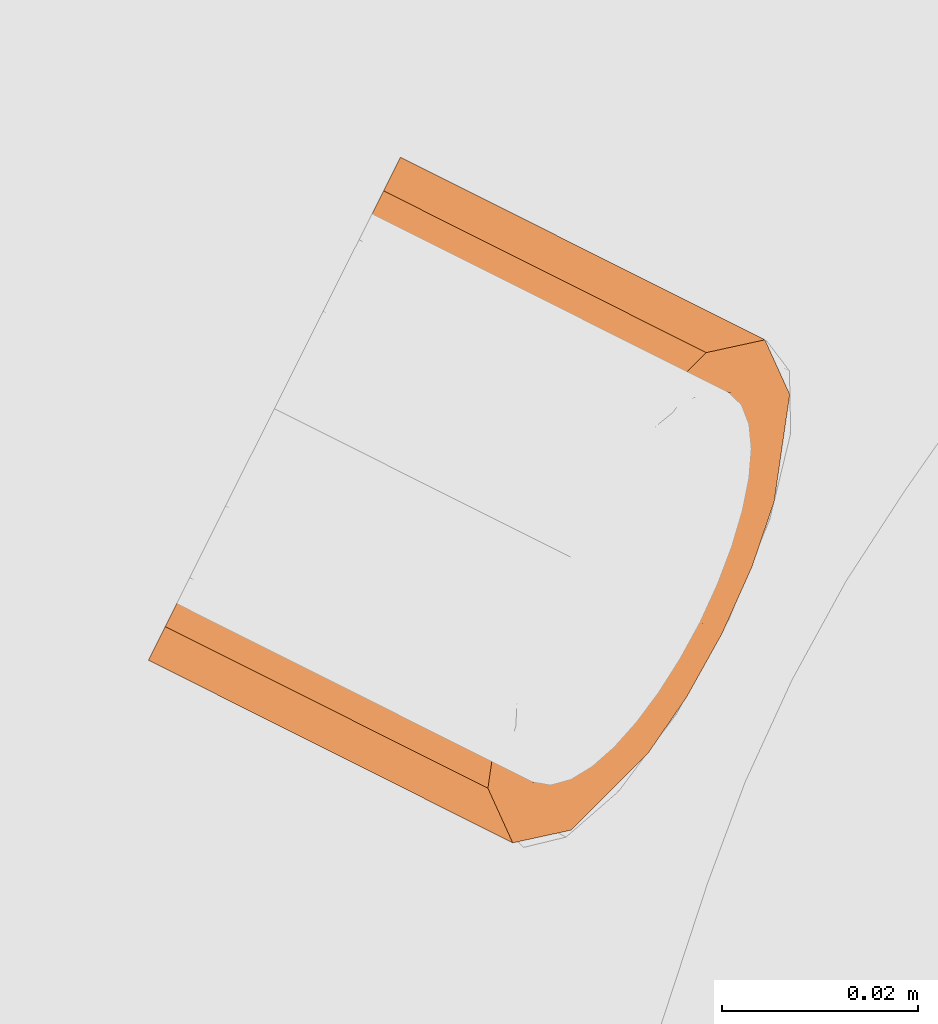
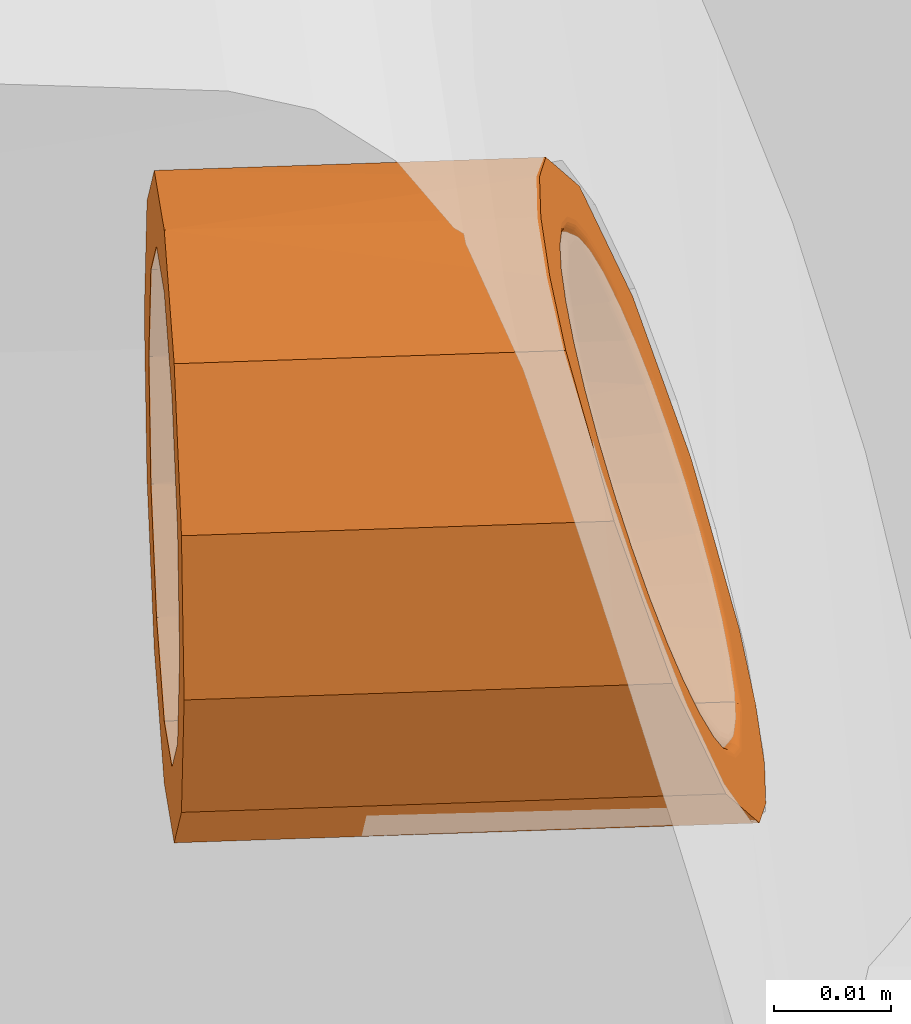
# One storey, part 184 of 206: 1 proxy.
"""IFC2X3 building model written with IfcOpenShell, lengths in metres."""

from ifc_helpers import new_model, si_unit, derived_unit, direction, frame, origin, place, context, subcontext, project, spatial, faceted_brep, source, transform, mapped, material, type_object, type_shapes, element, save


model = new_model("IFC2X3")

# Units and contexts
model_context = context("Model", 3, precision=5.2338327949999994e-05, world=origin(), true_north=direction((0.0, 1.0)))
body_context = subcontext(model_context, "Body", "Model", "MODEL_VIEW")
ifc_project = project(units=[si_unit("LENGTHUNIT", "METRE"), si_unit("AREAUNIT", "SQUARE_METRE"), si_unit("VOLUMEUNIT", "CUBIC_METRE"), si_unit("MASSUNIT", "GRAM", prefix="KILO"), si_unit("PLANEANGLEUNIT", "RADIAN"), derived_unit("THERMALTRANSMITTANCEUNIT", [(si_unit("MASSUNIT", "GRAM", prefix="KILO"), 1), (si_unit("THERMODYNAMICTEMPERATUREUNIT", "KELVIN"), -1), (si_unit("TIMEUNIT", "SECOND"), -3)])], contexts=[model_context])

# Site, building, storey
site_placement = place(None, frame((0.0, 0.0, 0.0), z_axis=(0.0, 0.0, 1.0), x_axis=(0.8939966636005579, -0.4480736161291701, 0.0)))
site = spatial("IfcSite", under=ifc_project, at=site_placement, Name="Default", CompositionType="ELEMENT")
building_placement = place(site_placement, origin())
building = spatial("IfcBuilding", under=site, at=building_placement, CompositionType="ELEMENT")
storey_placement = place(building_placement, origin())
storey = spatial("IfcBuildingStorey", under=building, at=storey_placement, Name="Erdgeschoss", CompositionType="ELEMENT", Elevation=0.0)

# Proxy
ifc_material = material(Name="IfcSurfaceStyle #626231")
building_element_proxy_type = type_object("IfcBuildingElementProxyType", Name="BuildingElementProxy 48:BuildingElementProxy 48", PredefinedType="NOTDEFINED", material=ifc_material)
shared_shape = source(origin(), body_context, "Body", "Brep", [
    faceted_brep([(21.723333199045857, 4.1910629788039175, 0.7645585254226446), (21.723921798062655, 4.1999830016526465, 0.7627842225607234), (21.72319190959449, 4.19119322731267, 0.764822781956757), (21.72377895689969, 4.1999830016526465, 0.7630608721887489), (21.723091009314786, 4.191251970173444, 0.764931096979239), (21.72355795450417, 4.199983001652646, 0.7632801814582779), (21.722972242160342, 4.191305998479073, 0.765022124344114), (21.722838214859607, 4.1913538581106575, 0.7650932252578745), (21.722261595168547, 4.187394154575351, 0.7671353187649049), (21.722126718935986, 4.187463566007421, 0.7671944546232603), (21.72131160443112, 4.183960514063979, 0.769959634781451), (21.72117554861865, 4.1840488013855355, 0.7700027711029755), (21.72015528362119, 4.181144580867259, 0.7733964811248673), (21.7200177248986, 4.181248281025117, 0.7734201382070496), (21.71883248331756, 4.179075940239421, 0.7773268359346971), (21.718693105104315, 4.179190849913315, 0.7773282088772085), (21.717398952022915, 4.177813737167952, 0.7815845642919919), (21.717257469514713, 4.177935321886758, 0.7815618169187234), (21.71591086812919, 4.177390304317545, 0.7860024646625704), (21.715767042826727, 4.177513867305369, 0.7859547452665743), (21.714424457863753, 4.177837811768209, 0.7904131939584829), (21.714278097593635, 4.177958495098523, 0.7903406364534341), (21.71299824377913, 4.17915252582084, 0.7946428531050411), (21.712849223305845, 4.179265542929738, 0.7945466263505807), (21.71168488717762, 4.1812576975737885, 0.7985356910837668), (21.71153320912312, 4.181358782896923, 0.7984178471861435), (21.710533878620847, 4.184068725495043, 0.8019455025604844), (21.71037968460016, 4.184154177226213, 0.8018088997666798), (21.709592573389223, 4.187491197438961, 0.8047325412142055), (21.709436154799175, 4.187557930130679, 0.804580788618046), (21.70889371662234, 4.191384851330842, 0.8068007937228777), (21.708735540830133, 4.191430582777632, 0.8066379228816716), (21.70846365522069, 4.19560157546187, 0.8080731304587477), (21.708304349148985, 4.195624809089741, 0.8079034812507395), (21.708318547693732, 4.1999830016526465, 0.8085023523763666), (21.708158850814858, 4.199983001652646, 0.8083304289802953), (21.708304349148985, 4.204341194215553, 0.8079034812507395), (21.708108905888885, 4.204328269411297, 0.8077736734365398), (21.708542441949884, 4.208509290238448, 0.806510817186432), (21.7083257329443, 4.20850373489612, 0.8064255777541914), (21.709034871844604, 4.212357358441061, 0.8043718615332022), (21.708810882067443, 4.212377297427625, 0.8043278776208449), (21.709772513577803, 4.215757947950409, 0.8015534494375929), (21.723280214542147, 4.1999830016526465, 0.7634208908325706), (21.722692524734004, 4.191394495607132, 0.7651430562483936), (21.721979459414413, 4.187521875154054, 0.7672329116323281), (21.721026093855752, 4.184121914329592, 0.7700263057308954), (21.71986545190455, 4.181332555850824, 0.7734259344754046), (21.718537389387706, 4.1792819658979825, 0.7773143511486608), (21.717097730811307, 4.178028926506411, 0.7815275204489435), (21.715602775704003, 4.17760581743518, 0.7859002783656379), (21.714108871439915, 4.178044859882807, 0.7902673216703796), (21.712674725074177, 4.179342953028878, 0.7944567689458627), (21.71135338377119, 4.181424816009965, 0.798314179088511), (21.71019476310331, 4.18420732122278, 0.8016944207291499), (21.709246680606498, 4.187597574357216, 0.8044586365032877), (21.708542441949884, 4.191456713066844, 0.8065108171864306), (21.708108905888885, 4.195637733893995, 0.807773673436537), (21.70796259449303, 4.1999830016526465, 0.8081997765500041), (21.70788902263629, 4.204326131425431, 0.8076899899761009), (21.708096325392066, 4.20852034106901, 0.8063894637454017), (21.72253901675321, 4.191426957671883, 0.7651705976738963), (21.722972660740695, 4.1999830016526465, 0.7634693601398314), (21.722384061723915, 4.1914456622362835, 0.7651675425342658), (21.721823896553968, 4.18756765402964, 0.767249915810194), (21.721669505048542, 4.187588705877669, 0.7672291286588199), (21.72070787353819, 4.184208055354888, 0.7700035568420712), (21.70750772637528, 4.1999830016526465, 0.8080876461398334), (21.70774160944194, 4.199983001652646, 0.8081167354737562), (21.707656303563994, 4.195630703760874, 0.8076589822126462), (21.70788902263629, 4.195639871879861, 0.8076899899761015), (21.708096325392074, 4.1914456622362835, 0.8063894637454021), (21.7083257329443, 4.1914622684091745, 0.8064255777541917), (21.708810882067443, 4.18758870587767, 0.804327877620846), (21.709034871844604, 4.187608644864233, 0.8043718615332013), (21.709772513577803, 4.184208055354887, 0.8015534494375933), (21.70998909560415, 4.184226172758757, 0.801607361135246), (21.71094426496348, 4.181433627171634, 0.7981727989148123), (21.711154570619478, 4.181453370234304, 0.798229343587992), (21.712281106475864, 4.1793720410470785, 0.7943158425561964), (21.71248305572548, 4.1793819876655, 0.7943771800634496), (21.71373166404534, 4.178102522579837, 0.7901308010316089), (21.713924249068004, 4.178093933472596, 0.7901963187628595), (21.715240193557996, 4.177673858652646, 0.7857785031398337), (21.71542475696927, 4.177663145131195, 0.785841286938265), (21.716748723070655, 4.178102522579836, 0.7814262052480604), (21.716925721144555, 4.178091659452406, 0.7814830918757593), (21.71819928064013, 4.179372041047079, 0.7772411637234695), (21.71837070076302, 4.17934664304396, 0.7772859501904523), (21.719536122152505, 4.181433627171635, 0.7733842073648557), (21.719703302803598, 4.1813951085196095, 0.7734139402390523), (21.720867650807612, 4.184177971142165, 0.7700298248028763), (21.707656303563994, 4.20433529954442, 0.8076589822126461), (21.709989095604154, 4.215739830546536, 0.8016073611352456), (21.71094426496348, 4.21853237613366, 0.7981727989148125), (21.711154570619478, 4.218512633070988, 0.7982293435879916), (21.712281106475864, 4.220593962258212, 0.794315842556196), (21.712483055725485, 4.220584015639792, 0.7943771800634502), (21.71373166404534, 4.221863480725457, 0.7901308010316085), (21.713924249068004, 4.221872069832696, 0.790196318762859), (21.715240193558, 4.222292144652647, 0.7857785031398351), (21.715424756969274, 4.222302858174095, 0.7858412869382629), (21.716748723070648, 4.221863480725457, 0.78142620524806), (21.71692572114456, 4.221874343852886, 0.7814830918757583), (21.71819928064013, 4.220593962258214, 0.7772411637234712), (21.71837070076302, 4.220619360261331, 0.7772859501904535), (21.719536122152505, 4.218532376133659, 0.7733842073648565), (21.719703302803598, 4.218570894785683, 0.7734139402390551), (21.72070787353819, 4.215757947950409, 0.7700035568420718), (21.720867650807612, 4.215788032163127, 0.7700298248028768), (21.721823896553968, 4.2123983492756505, 0.7672499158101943), (21.72102609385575, 4.2158440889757, 0.7700263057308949), (21.721979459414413, 4.21244412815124, 0.7672329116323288), (21.72117554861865, 4.2159172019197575, 0.770002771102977), (21.722126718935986, 4.2125024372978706, 0.7671944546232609), (21.721311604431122, 4.216005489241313, 0.769959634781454), (21.722261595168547, 4.212571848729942, 0.7671353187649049), (21.72143016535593, 4.21610683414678, 0.7698976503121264), (21.722380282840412, 4.2126507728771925, 0.7670566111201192), (21.7215283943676, 4.216218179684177, 0.7698189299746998), (21.72248007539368, 4.212736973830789, 0.7669607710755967), (21.721657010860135, 4.216465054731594, 0.7696113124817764), (21.722618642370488, 4.212932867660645, 0.7667125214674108), (21.721669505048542, 4.212377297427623, 0.7672291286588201), (21.72238406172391, 4.20852034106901, 0.7651675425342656), (21.722539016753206, 4.208539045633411, 0.7651705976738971), (21.723091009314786, 4.20871403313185, 0.764931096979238), (21.722972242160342, 4.208660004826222, 0.7650221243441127), (21.722838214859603, 4.2086121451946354, 0.7650932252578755), (21.722692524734, 4.208571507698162, 0.7651430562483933), (21.723191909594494, 4.208772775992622, 0.7648227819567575), (21.723333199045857, 4.208903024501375, 0.7645585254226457), (21.72048525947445, 4.219363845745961, 0.773143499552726), (21.720369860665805, 4.219075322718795, 0.7732980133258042), (21.720273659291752, 4.218941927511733, 0.7733552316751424), (21.720155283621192, 4.218821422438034, 0.7733964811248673), (21.7200177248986, 4.218717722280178, 0.7734201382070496), (21.71986545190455, 4.21863344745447, 0.7734259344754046), (21.719148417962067, 4.221517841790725, 0.7771733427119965), (21.71904429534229, 4.221177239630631, 0.777278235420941), (21.718950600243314, 4.221025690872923, 0.7773098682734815), (21.71883248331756, 4.2208900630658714, 0.7773268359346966), (21.718693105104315, 4.220775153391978, 0.7773282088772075), (21.718537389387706, 4.220684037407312, 0.7773143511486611), (21.717697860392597, 4.222844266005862, 0.7815459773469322), (21.717607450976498, 4.222463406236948, 0.7815920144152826), (21.717516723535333, 4.222298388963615, 0.7815946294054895), (21.717398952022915, 4.222152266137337, 0.7815845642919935), (21.717257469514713, 4.222030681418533, 0.7815618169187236), (21.717097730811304, 4.221937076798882, 0.7815275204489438), (21.71618933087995, 4.223292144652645, 0.7860933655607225), (21.71611554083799, 4.222900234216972, 0.7860704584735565), (21.71602819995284, 4.222727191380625, 0.7860414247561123), (21.715910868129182, 4.222575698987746, 0.7860024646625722), (21.715767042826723, 4.222452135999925, 0.7859547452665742), (21.715602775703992, 4.222360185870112, 0.7859002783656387), (21.71468080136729, 4.22284426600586, 0.7906407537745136), (21.714624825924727, 4.222454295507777, 0.790544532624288), (21.714541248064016, 4.222279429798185, 0.7904820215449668), (21.714424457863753, 4.222128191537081, 0.7904131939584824), (21.714278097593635, 4.222007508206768, 0.7903406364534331), (21.714108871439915, 4.221921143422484, 0.7902673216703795), (21.71323024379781, 4.2215178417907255, 0.7950133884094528), (21.713193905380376, 4.221128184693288, 0.7948382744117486), (21.71311438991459, 4.220958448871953, 0.7947414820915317), (21.712998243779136, 4.220813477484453, 0.7946428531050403), (21.71284922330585, 4.220700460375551, 0.794546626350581), (21.712674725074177, 4.220623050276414, 0.7944567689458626), (21.711875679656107, 4.2189984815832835, 0.7987930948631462), (21.711893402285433, 4.219363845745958, 0.7990432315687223), (21.71071991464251, 4.216149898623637, 0.8022598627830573), (21.710721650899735, 4.216465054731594, 0.8025754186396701), (21.709760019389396, 4.212932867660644, 0.805474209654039), (21.709774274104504, 4.21267721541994, 0.8050958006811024), (21.70904546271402, 4.2089030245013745, 0.8076282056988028), (21.709071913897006, 4.208722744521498, 0.8072018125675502), (21.70860544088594, 4.204530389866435, 0.8089546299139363), (21.7086395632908, 4.204437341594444, 0.8084980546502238), (21.70845686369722, 4.1999830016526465, 0.8094025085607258), (21.708493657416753, 4.1999830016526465, 0.8089354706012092), (21.7086395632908, 4.195528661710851, 0.808498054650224), (21.708576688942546, 4.195568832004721, 0.8082752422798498), (21.709007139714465, 4.191321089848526, 0.8069923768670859), (21.70860544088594, 4.195435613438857, 0.8089546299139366), (21.70907191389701, 4.191243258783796, 0.807201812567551), (21.70970657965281, 4.187399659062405, 0.8049073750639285), (21.70904546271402, 4.191062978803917, 0.8076282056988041), (21.709774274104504, 4.187288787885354, 0.8050958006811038), (21.710648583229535, 4.183953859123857, 0.8020984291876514), (21.70976001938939, 4.187033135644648, 0.80547420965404), (21.71071991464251, 4.1838161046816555, 0.8022598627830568), (21.71180032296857, 4.1811249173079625, 0.7986627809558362), (21.710721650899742, 4.1835009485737, 0.8025754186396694), (21.71189340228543, 4.180602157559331, 0.7990432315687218), (21.7118756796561, 4.180967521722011, 0.7987930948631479), (21.71323024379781, 4.17844816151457, 0.7950133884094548), (21.713193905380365, 4.178837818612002, 0.7948382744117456), (21.71462482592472, 4.177511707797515, 0.7905445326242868), (21.714541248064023, 4.17768657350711, 0.7904820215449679), (21.71602819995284, 4.177238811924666, 0.7860414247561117), (21.714680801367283, 4.177121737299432, 0.7906407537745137), (21.71611554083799, 4.177065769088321, 0.7860704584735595), (21.71751672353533, 4.177667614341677, 0.7815946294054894), (21.716189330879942, 4.176673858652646, 0.7860933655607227), (21.71760745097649, 4.177502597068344, 0.7815920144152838), (21.718950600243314, 4.178940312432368, 0.7773098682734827), (21.7176978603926, 4.177121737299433, 0.7815459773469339), (21.719044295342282, 4.178788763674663, 0.777278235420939), (21.720273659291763, 4.181024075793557, 0.7733552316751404), (21.719148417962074, 4.178448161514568, 0.7771733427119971), (21.720369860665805, 4.180890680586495, 0.7732980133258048), (21.721430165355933, 4.183859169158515, 0.7698976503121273), (21.720485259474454, 4.180602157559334, 0.7731434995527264), (21.7215283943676, 4.183747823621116, 0.7698189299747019), (21.722380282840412, 4.1873152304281, 0.7670566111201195), (21.72165701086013, 4.1835009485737, 0.769611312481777), (21.72248007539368, 4.187229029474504, 0.7669607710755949), (21.722618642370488, 4.18703313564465, 0.7667125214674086), (21.71311438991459, 4.1790075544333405, 0.7947414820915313), (21.708431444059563, 4.1999830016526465, 0.8087080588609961), (21.708576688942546, 4.204397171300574, 0.8082752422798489), (21.709007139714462, 4.2086449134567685, 0.8069923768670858), (21.709706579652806, 4.2125663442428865, 0.8049073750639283), (21.710648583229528, 4.216012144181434, 0.8020984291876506), (21.71180032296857, 4.218841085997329, 0.7986627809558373), (21.70846365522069, 4.204364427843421, 0.8080731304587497), (21.708893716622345, 4.208581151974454, 0.8068007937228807), (21.709592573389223, 4.212474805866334, 0.8047325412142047), (21.710533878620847, 4.215897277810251, 0.8019455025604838), (21.71168488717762, 4.218708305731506, 0.7985356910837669), (21.708735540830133, 4.208535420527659, 0.8066379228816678), (21.709436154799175, 4.212408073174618, 0.8045807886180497), (21.71037968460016, 4.215811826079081, 0.8018088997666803), (21.71153320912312, 4.218607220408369, 0.7984178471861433), (21.7092466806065, 4.212368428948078, 0.8044586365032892), (21.71019476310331, 4.215758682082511, 0.8016944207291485), (21.711353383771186, 4.218541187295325, 0.7983141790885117), (21.725514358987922, 4.192535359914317, 0.7579835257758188), (21.725839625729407, 4.1999830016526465, 0.7570030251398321), (21.725514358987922, 4.207430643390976, 0.7579835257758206), (21.724560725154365, 4.2143707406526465, 0.7608582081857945), (21.721066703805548, 4.224903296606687, 0.7713907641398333), (21.7162937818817, 4.228758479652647, 0.7857785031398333), (21.71152085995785, 4.224903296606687, 0.8001662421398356), (21.70802683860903, 4.2143707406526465, 0.8106987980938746), (21.707073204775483, 4.207430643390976, 0.8135734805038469), (21.706747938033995, 4.1999830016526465, 0.8145539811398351), (21.707073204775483, 4.192535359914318, 0.8135734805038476), (21.70802683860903, 4.185595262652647, 0.8106987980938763), (21.71152085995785, 4.175062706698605, 0.8001662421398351), (21.716293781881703, 4.171207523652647, 0.785778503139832), (21.721066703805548, 4.175062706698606, 0.7713907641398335), (21.724560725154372, 4.185595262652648, 0.7608582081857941), (21.674596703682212, 4.219303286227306, 0.7746239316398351), (21.674596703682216, 4.222292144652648, 0.7857785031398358), (21.674596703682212, 4.211137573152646, 0.7664582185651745), (21.674596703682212, 4.199983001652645, 0.7634693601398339), (21.674596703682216, 4.188828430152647, 0.7664582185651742), (21.67459670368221, 4.180662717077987, 0.7746239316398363), (21.674596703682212, 4.177673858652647, 0.785778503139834), (21.674596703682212, 4.180662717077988, 0.796933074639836), (21.674596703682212, 4.188828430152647, 0.8050987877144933), (21.674596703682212, 4.199983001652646, 0.8080876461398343), (21.674596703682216, 4.211137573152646, 0.8050987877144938), (21.674596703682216, 4.219303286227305, 0.7969330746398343), (21.674596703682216, 4.2143707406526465, 0.8106987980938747), (21.674596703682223, 4.224903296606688, 0.8001662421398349), (21.674596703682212, 4.228758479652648, 0.7857785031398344), (21.674596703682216, 4.224903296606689, 0.7713907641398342), (21.674596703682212, 4.2143707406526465, 0.7608582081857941), (21.674596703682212, 4.199983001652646, 0.7570030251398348), (21.674596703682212, 4.199983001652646, 0.814553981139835), (21.674596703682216, 4.185595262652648, 0.8106987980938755), (21.674596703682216, 4.175062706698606, 0.8001662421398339), (21.674596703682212, 4.171207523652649, 0.7857785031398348), (21.674596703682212, 4.175062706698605, 0.771390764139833), (21.674596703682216, 4.185595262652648, 0.7608582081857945)], [[[0, 1, 2]], [[2, 1, 3]], [[2, 3, 4]], [[4, 3, 5]], [[4, 5, 6]], [[6, 5, 7]], [[6, 7, 8]], [[8, 7, 9]], [[8, 9, 10]], [[10, 9, 11]], [[10, 11, 12]], [[12, 11, 13]], [[12, 13, 14]], [[14, 13, 15]], [[14, 15, 16]], [[16, 15, 17]], [[16, 17, 18]], [[18, 17, 19]], [[18, 19, 20]], [[20, 19, 21]], [[20, 21, 22]], [[22, 21, 23]], [[22, 23, 24]], [[24, 23, 25]], [[24, 25, 26]], [[26, 25, 27]], [[26, 27, 28]], [[28, 27, 29]], [[28, 29, 30]], [[30, 29, 31]], [[30, 31, 32]], [[32, 31, 33]], [[32, 33, 34]], [[34, 33, 35]], [[34, 35, 36]], [[36, 35, 37]], [[36, 37, 38]], [[38, 37, 39]], [[38, 39, 40]], [[40, 39, 41]], [[40, 41, 42]], [[5, 43, 7]], [[7, 43, 44]], [[7, 44, 9]], [[9, 44, 45]], [[9, 45, 11]], [[11, 45, 46]], [[11, 46, 13]], [[13, 46, 47]], [[13, 47, 15]], [[15, 47, 48]], [[15, 48, 17]], [[17, 48, 49]], [[17, 49, 19]], [[19, 49, 50]], [[19, 50, 21]], [[21, 50, 51]], [[21, 51, 23]], [[23, 51, 52]], [[23, 52, 25]], [[25, 52, 53]], [[25, 53, 27]], [[27, 53, 54]], [[27, 54, 29]], [[29, 54, 55]], [[29, 55, 31]], [[31, 55, 56]], [[31, 56, 33]], [[33, 56, 57]], [[33, 57, 35]], [[35, 57, 58]], [[35, 58, 37]], [[37, 58, 59]], [[37, 59, 39]], [[39, 59, 60]], [[39, 60, 41]], [[44, 43, 61]], [[61, 43, 62]], [[61, 62, 63]], [[61, 63, 64]], [[64, 63, 65]], [[64, 65, 66]], [[67, 68, 69]], [[69, 68, 70]], [[69, 70, 71]], [[71, 70, 72]], [[71, 72, 73]], [[73, 72, 74]], [[73, 74, 75]], [[75, 74, 76]], [[75, 76, 77]], [[77, 76, 78]], [[77, 78, 79]], [[79, 78, 80]], [[79, 80, 81]], [[81, 80, 82]], [[81, 82, 83]], [[83, 82, 84]], [[83, 84, 85]], [[85, 84, 86]], [[85, 86, 87]], [[87, 86, 88]], [[87, 88, 89]], [[89, 88, 90]], [[89, 90, 66]], [[66, 90, 91]], [[66, 91, 64]], [[64, 91, 46]], [[64, 46, 45]], [[67, 92, 68]], [[68, 92, 59]], [[68, 59, 58]], [[92, 60, 59]], [[40, 42, 93]], [[93, 42, 94]], [[93, 94, 95]], [[95, 94, 96]], [[95, 96, 97]], [[97, 96, 98]], [[97, 98, 99]], [[99, 98, 100]], [[99, 100, 101]], [[101, 100, 102]], [[101, 102, 103]], [[103, 102, 104]], [[103, 104, 105]], [[105, 104, 106]], [[105, 106, 107]], [[107, 106, 108]], [[107, 108, 109]], [[109, 108, 110]], [[109, 110, 111]], [[111, 110, 112]], [[111, 112, 113]], [[113, 112, 114]], [[113, 114, 115]], [[115, 114, 116]], [[115, 116, 117]], [[117, 116, 118]], [[117, 118, 119]], [[119, 118, 120]], [[119, 120, 121]], [[121, 120, 122]], [[108, 123, 110]], [[110, 123, 124]], [[110, 124, 125]], [[125, 124, 62]], [[125, 62, 43]], [[120, 118, 126]], [[126, 118, 127]], [[126, 127, 5]], [[5, 127, 128]], [[5, 128, 43]], [[43, 128, 129]], [[43, 129, 125]], [[125, 129, 112]], [[125, 112, 110]], [[5, 3, 126]], [[126, 3, 130]], [[126, 130, 120]], [[120, 130, 122]], [[3, 1, 130]], [[130, 1, 131]], [[130, 131, 122]], [[121, 132, 119]], [[119, 132, 133]], [[119, 133, 117]], [[117, 133, 134]], [[117, 134, 115]], [[115, 134, 135]], [[115, 135, 113]], [[113, 135, 136]], [[113, 136, 111]], [[111, 136, 137]], [[111, 137, 109]], [[109, 137, 107]], [[132, 138, 133]], [[133, 138, 139]], [[133, 139, 134]], [[134, 139, 140]], [[134, 140, 135]], [[135, 140, 141]], [[135, 141, 136]], [[136, 141, 142]], [[136, 142, 137]], [[137, 142, 143]], [[137, 143, 107]], [[107, 143, 105]], [[138, 144, 139]], [[139, 144, 145]], [[139, 145, 140]], [[140, 145, 146]], [[140, 146, 141]], [[141, 146, 147]], [[141, 147, 142]], [[142, 147, 148]], [[142, 148, 143]], [[143, 148, 149]], [[143, 149, 105]], [[105, 149, 103]], [[144, 150, 145]], [[145, 150, 151]], [[145, 151, 146]], [[146, 151, 152]], [[146, 152, 147]], [[147, 152, 153]], [[147, 153, 148]], [[148, 153, 154]], [[148, 154, 149]], [[149, 154, 155]], [[149, 155, 103]], [[103, 155, 101]], [[150, 156, 151]], [[151, 156, 157]], [[151, 157, 152]], [[152, 157, 158]], [[152, 158, 153]], [[153, 158, 159]], [[153, 159, 154]], [[154, 159, 160]], [[154, 160, 155]], [[155, 160, 161]], [[155, 161, 101]], [[101, 161, 99]], [[156, 162, 157]], [[157, 162, 163]], [[157, 163, 158]], [[158, 163, 164]], [[158, 164, 159]], [[159, 164, 165]], [[159, 165, 160]], [[160, 165, 166]], [[160, 166, 161]], [[161, 166, 167]], [[161, 167, 99]], [[99, 167, 97]], [[163, 162, 168]], [[168, 162, 169]], [[168, 169, 170]], [[170, 169, 171]], [[170, 171, 172]], [[170, 172, 173]], [[173, 172, 174]], [[173, 174, 175]], [[175, 174, 176]], [[175, 176, 177]], [[177, 176, 178]], [[177, 178, 179]], [[179, 178, 180]], [[179, 180, 181]], [[181, 180, 182]], [[181, 182, 30]], [[30, 182, 28]], [[178, 183, 180]], [[180, 183, 184]], [[180, 184, 182]], [[182, 184, 185]], [[182, 185, 28]], [[28, 185, 26]], [[183, 186, 184]], [[184, 186, 187]], [[184, 187, 185]], [[185, 187, 188]], [[185, 188, 26]], [[26, 188, 24]], [[186, 189, 187]], [[187, 189, 190]], [[187, 190, 188]], [[188, 190, 191]], [[188, 191, 24]], [[24, 191, 22]], [[189, 192, 190]], [[190, 192, 193]], [[190, 193, 194]], [[194, 193, 195]], [[194, 195, 196]], [[196, 195, 197]], [[196, 197, 198]], [[198, 197, 199]], [[198, 199, 18]], [[18, 199, 16]], [[195, 200, 197]], [[197, 200, 201]], [[197, 201, 199]], [[199, 201, 202]], [[199, 202, 16]], [[16, 202, 14]], [[200, 203, 201]], [[201, 203, 204]], [[201, 204, 202]], [[202, 204, 205]], [[202, 205, 14]], [[14, 205, 12]], [[203, 206, 204]], [[204, 206, 207]], [[204, 207, 205]], [[205, 207, 208]], [[205, 208, 12]], [[12, 208, 10]], [[206, 209, 207]], [[207, 209, 210]], [[207, 210, 208]], [[208, 210, 211]], [[208, 211, 10]], [[10, 211, 8]], [[209, 212, 210]], [[210, 212, 213]], [[210, 213, 211]], [[211, 213, 214]], [[211, 214, 8]], [[8, 214, 6]], [[212, 215, 213]], [[213, 215, 216]], [[213, 216, 214]], [[214, 216, 4]], [[214, 4, 6]], [[215, 217, 216]], [[216, 217, 2]], [[216, 2, 4]], [[217, 0, 2]], [[64, 45, 61]], [[61, 45, 44]], [[46, 91, 47]], [[47, 91, 90]], [[47, 90, 48]], [[48, 90, 88]], [[48, 88, 49]], [[49, 88, 86]], [[49, 86, 50]], [[50, 86, 84]], [[50, 84, 51]], [[51, 84, 82]], [[51, 82, 52]], [[52, 82, 80]], [[52, 80, 53]], [[53, 80, 78]], [[53, 78, 54]], [[54, 78, 76]], [[54, 76, 55]], [[55, 76, 74]], [[55, 74, 56]], [[56, 74, 72]], [[56, 72, 57]], [[57, 72, 70]], [[57, 70, 58]], [[58, 70, 68]], [[18, 20, 198]], [[198, 20, 218]], [[198, 218, 196]], [[196, 218, 194]], [[20, 22, 218]], [[218, 22, 191]], [[218, 191, 194]], [[194, 191, 190]], [[30, 32, 181]], [[181, 32, 219]], [[181, 219, 179]], [[179, 219, 220]], [[179, 220, 177]], [[177, 220, 221]], [[177, 221, 175]], [[175, 221, 222]], [[175, 222, 173]], [[173, 222, 223]], [[173, 223, 170]], [[170, 223, 224]], [[170, 224, 168]], [[168, 224, 164]], [[168, 164, 163]], [[32, 34, 219]], [[219, 34, 225]], [[219, 225, 220]], [[220, 225, 226]], [[220, 226, 221]], [[221, 226, 227]], [[221, 227, 222]], [[222, 227, 228]], [[222, 228, 223]], [[223, 228, 229]], [[223, 229, 224]], [[224, 229, 165]], [[224, 165, 164]], [[34, 36, 225]], [[225, 36, 230]], [[225, 230, 226]], [[226, 230, 231]], [[226, 231, 227]], [[227, 231, 232]], [[227, 232, 228]], [[228, 232, 233]], [[228, 233, 229]], [[229, 233, 166]], [[229, 166, 165]], [[36, 38, 230]], [[230, 38, 234]], [[230, 234, 231]], [[231, 234, 235]], [[231, 235, 232]], [[232, 235, 236]], [[232, 236, 233]], [[233, 236, 167]], [[233, 167, 166]], [[38, 40, 234]], [[234, 40, 93]], [[234, 93, 235]], [[235, 93, 95]], [[235, 95, 236]], [[236, 95, 97]], [[236, 97, 167]], [[112, 129, 114]], [[114, 129, 128]], [[114, 128, 116]], [[116, 128, 127]], [[116, 127, 118]], [[237, 238, 1]], [[1, 238, 239]], [[1, 239, 131]], [[131, 239, 240]], [[131, 240, 122]], [[122, 240, 121]], [[240, 241, 121]], [[121, 241, 132]], [[156, 150, 242]], [[242, 150, 144]], [[242, 144, 241]], [[241, 144, 138]], [[241, 138, 132]], [[242, 243, 156]], [[156, 243, 162]], [[174, 172, 244]], [[244, 172, 171]], [[244, 171, 243]], [[243, 171, 169]], [[243, 169, 162]], [[244, 245, 174]], [[174, 245, 176]], [[245, 246, 176]], [[176, 246, 178]], [[178, 246, 183]], [[183, 246, 247]], [[183, 247, 186]], [[186, 247, 248]], [[186, 248, 189]], [[189, 248, 192]], [[248, 249, 192]], [[192, 249, 193]], [[206, 203, 250]], [[250, 203, 200]], [[250, 200, 249]], [[249, 200, 195]], [[249, 195, 193]], [[250, 251, 206]], [[206, 251, 209]], [[0, 217, 252]], [[252, 217, 215]], [[252, 215, 251]], [[251, 215, 212]], [[251, 212, 209]], [[252, 237, 0]], [[0, 237, 1]], [[106, 104, 253]], [[253, 104, 102]], [[253, 102, 254]], [[254, 102, 100]], [[254, 100, 98]], [[106, 253, 108]], [[108, 253, 255]], [[108, 255, 123]], [[123, 255, 124]], [[255, 256, 124]], [[124, 256, 62]], [[62, 256, 63]], [[63, 256, 257]], [[63, 257, 65]], [[65, 257, 66]], [[257, 258, 66]], [[66, 258, 89]], [[81, 83, 259]], [[259, 83, 85]], [[259, 85, 258]], [[258, 85, 87]], [[258, 87, 89]], [[259, 260, 81]], [[81, 260, 79]], [[71, 73, 261]], [[261, 73, 75]], [[261, 75, 260]], [[260, 75, 77]], [[260, 77, 79]], [[71, 261, 69]], [[69, 261, 262]], [[69, 262, 67]], [[67, 262, 92]], [[262, 263, 92]], [[92, 263, 60]], [[96, 94, 264]], [[264, 94, 42]], [[264, 42, 263]], [[263, 42, 41]], [[263, 41, 60]], [[96, 264, 98]], [[98, 264, 254]], [[245, 244, 265]], [[265, 244, 243]], [[265, 243, 266]], [[266, 243, 242]], [[266, 242, 267]], [[267, 242, 241]], [[267, 241, 268]], [[268, 241, 240]], [[268, 240, 269]], [[269, 240, 239]], [[269, 239, 270]], [[270, 239, 238]], [[270, 238, 237]], [[265, 271, 245]], [[245, 271, 246]], [[246, 271, 247]], [[247, 271, 272]], [[247, 272, 248]], [[248, 272, 273]], [[248, 273, 249]], [[249, 273, 274]], [[249, 274, 250]], [[250, 274, 275]], [[250, 275, 251]], [[251, 275, 276]], [[251, 276, 252]], [[252, 276, 237]], [[276, 270, 237]], [[253, 254, 267]], [[267, 254, 264]], [[267, 264, 266]], [[266, 264, 263]], [[266, 263, 265]], [[265, 263, 262]], [[265, 262, 271]], [[271, 262, 272]], [[262, 261, 272]], [[272, 261, 273]], [[261, 260, 273]], [[273, 260, 274]], [[260, 259, 274]], [[274, 259, 275]], [[259, 258, 275]], [[275, 258, 257]], [[275, 257, 276]], [[276, 257, 256]], [[276, 256, 270]], [[270, 256, 269]], [[256, 255, 269]], [[269, 255, 268]], [[255, 253, 268]], [[268, 253, 267]]]),
])
type_shapes(building_element_proxy_type, [shared_shape])
proxy_placement = place(storey_placement, origin())
element("IfcBuildingElementProxy", 1, at=proxy_placement, inside=storey, type_object=building_element_proxy_type, material=ifc_material, Name="BuildingElementProxy 48", context=body_context, shape_type="MappedRepresentation", body=[
    mapped(shared_shape, transform((0.0, 0.0, 0.0), scale=1.0)),
])

save(model, "model.ifc")
